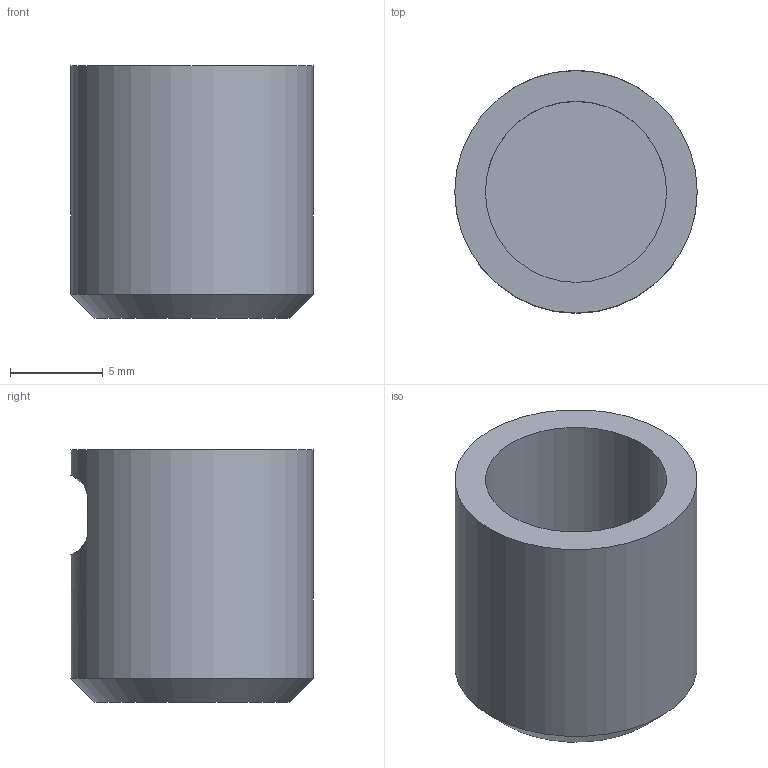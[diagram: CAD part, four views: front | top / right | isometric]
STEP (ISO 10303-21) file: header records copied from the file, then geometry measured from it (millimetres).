
FILE_DESCRIPTION(/* description */ (''),/* implementation_level */ '2;1');
FILE_NAME(/* name */ 'Crank Arm Plunger.stp',/* time_stamp */ '2026-08-25T20:06:23-06:00',/* author */ (''),/* organization */ (''),/* preprocessor_version */ 'ST-DEVELOPER v18.102',/* originating_system */ 'SIEMENS PLM Software NX 2027',/* authorisation */ '');
FILE_SCHEMA (('AUTOMOTIVE_DESIGN { 1 0 10303 214 3 1 1 1 }'));
Length unit declared in the file: inch
Products named in the file (1): Crank Arm Plunger
Bounding box: 13.05 x 13.05 x 13.61 mm (x, y, z)
Volume: 1188.4 mm3; surface area: 1034.8 mm2
Topology: 1 solids, 1 shells, 11 faces, 20 edges, 13 vertices
Faces by surface type: plane 5, extrusion 3, cylinder 2, cone 1
Full cylindrical faces by diameter (mm): 9.754 x1, 13.052 x1
Entity records: 365 total; most frequent: CARTESIAN_POINT 135, DIRECTION 39, ORIENTED_EDGE 34, EDGE_CURVE 17, EDGE_LOOP 16, AXIS2_PLACEMENT_3D 16, VERTEX_POINT 13, ADVANCED_FACE 11
